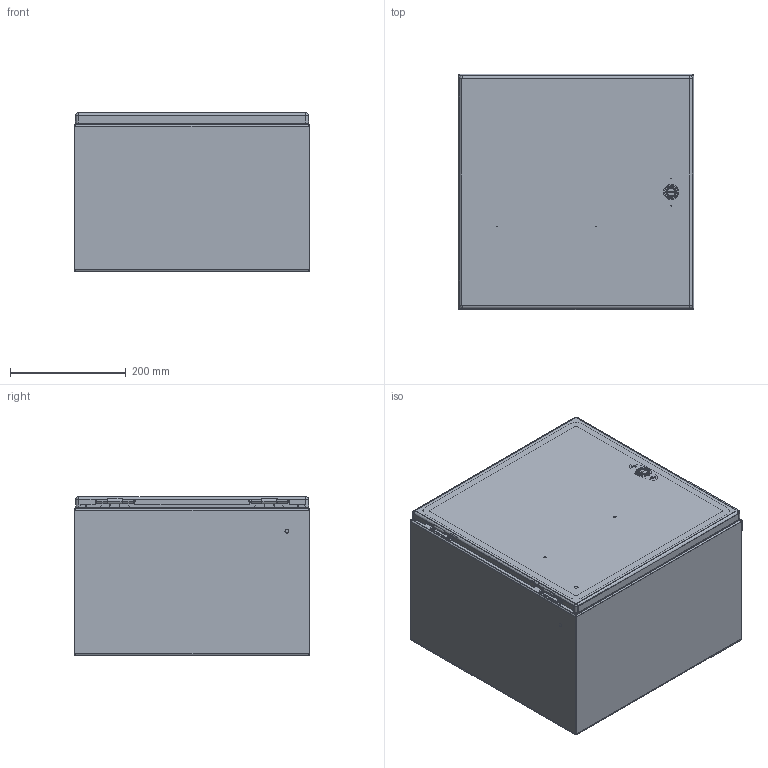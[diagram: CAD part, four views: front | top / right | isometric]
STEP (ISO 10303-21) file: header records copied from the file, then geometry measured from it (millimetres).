
FILE_DESCRIPTION (( 'STEP AP203' ), '1' );
FILE_NAME ('csd161610ss6.STEP', '2012-03-08T16:41:44', ( 'Hoffman User' ), ( 'Hoffman Enclosures' ), 'SwSTEP 2.0', 'SolidWorks 2010', '' );
FILE_SCHEMA (( 'CONFIG_CONTROL_DESIGN' ));
Length unit declared in the file: inch
Products named in the file (24): 64201001; 87541994_Installed Height; 87541995; 64202002; 64210001; 64203001; 87927840_87927840; csd161610ss6; 87953282; 87953283; 23271002_After Weld; 87543026; 89076399; 89076193; 89056623; 87930615; 87928711; 87929769_Installed on Pin; 87953290_weldment; 87953291; 99401226_After Weld; 87751114_87751114; 87953333; 64101002
Assembly tree (33 placements, depth 3):
  csd161610ss6
    87953290_weldment
      87953291
      99401226_After Weld
      87751114_87751114  x4
      87953333
    87930615  x2
      87929769_Installed on Pin
      87928711
    89076399  x2
      89056623
      89076193
    87543026  x2
    87953282
      23271002_After Weld  x4
      87953283
      99401226_After Weld
    64101002
      64202002
      87541995
      87541994_Installed Height
      87927840_87927840
      64203001
      64210001
      64201001
Bounding box: 406.4 x 406.4 x 274.7 mm (x, y, z)
Volume: 1132760.3 mm3; surface area: 1712920.5 mm2
Topology: 31 solids, 31 shells, 1488 faces, 3594 edges, 2194 vertices
Faces by surface type: plane 616, cylinder 454, bspline 220, torus 126, cone 64, sphere 8
Entity records: 42776 total; most frequent: CARTESIAN_POINT 15038, ORIENTED_EDGE 5414, DIRECTION 4817, EDGE_CURVE 2707, AXIS2_PLACEMENT_3D 1779, VERTEX_POINT 1662, VECTOR 1259, LINE 1259
